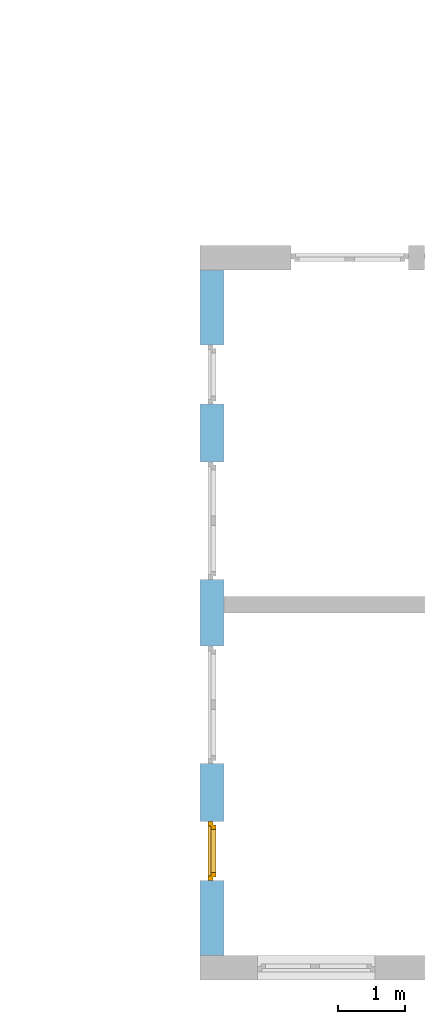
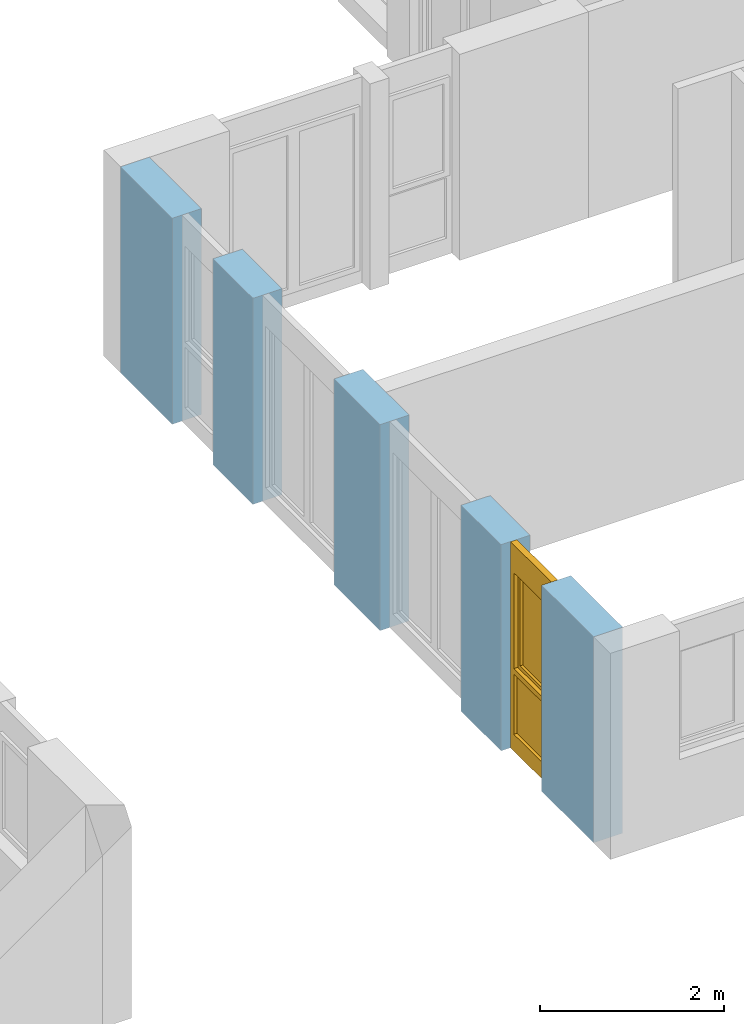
# One storey, part 13 of 41: 1 window, 4 openings, plus 1 element that does not belong to this part.
"""IFC2X3 building model written with IfcOpenShell, lengths in millimetres."""

from ifc_helpers import new_model, entity, si_unit, converted_unit, frame, frame_2d, origin, origin_with_axes, place, context, subcontext, project, spatial, rectangle, extrude, faceted_brep, material, layer, layer_set, layer_usage, type_object, element, fill, save


model = new_model("IFC2X3")

# Units and contexts
model_context = context("Model", 3, precision=1e-05, world=origin())
body_context = subcontext(model_context, "Body", "Model", "MODEL_VIEW")
ifc_project = project(units=[si_unit("LENGTHUNIT", "METRE", prefix="MILLI"), converted_unit("PLANEANGLEUNIT", "DEGREE", entity("IfcPlaneAngleMeasure", 0.0174532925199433), si_unit("PLANEANGLEUNIT", "RADIAN"), dimensions=[0, 0, 0, 0, 0, 0, 0]), si_unit("AREAUNIT", "SQUARE_METRE"), si_unit("VOLUMEUNIT", "CUBIC_METRE")], contexts=[model_context])

# Building, storey
building_placement = place(None, origin())
building = spatial("IfcBuilding", under=ifc_project, at=building_placement, Name="Gebäude", CompositionType="ELEMENT")
storey_placement = place(building_placement, frame((0.0, 0.0, -200.0), z_axis=(0.0, 0.0, 1.0), x_axis=(1.0, 0.0, 0.0)))
storey = spatial("IfcBuildingStorey", under=building, at=storey_placement, Name="EG.- Grundriss", CompositionType="ELEMENT", Elevation=-200.0)

# Wall, openings, window
ifc_material_1 = material(Name="Poroton")
ifc_layer = layer(ifc_material_1, 365.0)
ifc_layer_set = layer_set([ifc_layer])
ifc_layer_usage = layer_usage(ifc_layer_set, "AXIS2", "POSITIVE", 0.0)
wall_placement = place(storey_placement, frame((148357.7928067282, 135909.8877324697, 0.0), z_axis=(0.0, 0.0, 1.0), x_axis=(1.70032115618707e-14, -1.0, 0.0)))
wall = element("IfcWallStandardCase", 1, at=wall_placement, inside=storey, material=ifc_layer_usage, Name="<Unnamed Element>", context=body_context, shape_type="SweptSolid", body=[
    extrude(rectangle(XDim=10269.99999999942, YDim=365.0, at=frame_2d((5134.999999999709, 182.5), x_axis=(1.0, 0.0))), origin_with_axes(), (0.0, 0.0, 1.0), 2730.0),
])
opening_1_placement = place(wall_placement, frame((8259.999999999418, -9.487848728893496e-11, 0.0), z_axis=(0.0, 1.0, 0.0), x_axis=(0.0, 0.0, 1.0)))
opening_1 = element("IfcOpeningElement", 2, at=opening_1_placement, cuts=wall, Name="Fensteröffnung", ObjectType="Opening", context=body_context, shape_type="SweptSolid", body=[
    extrude(rectangle(XDim=2730.0, YDim=885.0, at=frame_2d((1365.0, 442.5), x_axis=(1.0, 0.0))), origin_with_axes(), (0.0, 0.0, 1.0), 365.0),
])
opening_2_placement = place(wall_placement, frame((5634.999999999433, -7.668859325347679e-11, 0.0), z_axis=(0.0, 1.0, 0.0), x_axis=(0.0, 0.0, 1.0)))
element("IfcOpeningElement", 3, at=opening_2_placement, cuts=wall, Name="Fensteröffnung", ObjectType="Opening", context=body_context, shape_type="SweptSolid", body=[
    extrude(rectangle(XDim=2730.0, YDim=1760.0, at=frame_2d((1365.0, 880.0), x_axis=(1.0, 0.0))), origin_with_axes(), (0.0, 0.0, 1.0), 365.0),
])
opening_3_placement = place(wall_placement, frame((2874.999999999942, -2.54658516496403e-11, 0.0), z_axis=(0.0, 1.0, 0.0), x_axis=(0.0, 0.0, 1.0)))
element("IfcOpeningElement", 4, at=opening_3_placement, cuts=wall, Name="Fensteröffnung", ObjectType="Opening", context=body_context, shape_type="SweptSolid", body=[
    extrude(rectangle(XDim=2730.0, YDim=1760.0, at=frame_2d((1365.0, 880.0), x_axis=(1.0, 0.0))), origin_with_axes(), (0.0, 0.0, 1.0), 365.0),
])
opening_4_placement = place(wall_placement, frame((1124.999999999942, -3.63797880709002e-12, 0.0), z_axis=(0.0, 1.0, 0.0), x_axis=(0.0, 0.0, 1.0)))
element("IfcOpeningElement", 5, at=opening_4_placement, cuts=wall, Name="Fensteröffnung", ObjectType="Opening", context=body_context, shape_type="SweptSolid", body=[
    extrude(rectangle(XDim=2730.0, YDim=885.0, at=frame_2d((1365.0, 442.5), x_axis=(1.0, 0.0))), origin_with_axes(), (0.0, 0.0, 1.0), 365.0),
])
ifc_material_2 = material()
window_style = type_object("IfcWindowStyle", Name="Fenster", ConstructionType="NOTDEFINED", OperationType="USERDEFINED", ParameterTakesPrecedence=False, Sizeable=False)
window_placement = place(opening_1_placement, frame((0.0, 0.0, 0.0), z_axis=(1.0, 0.0, 0.0), x_axis=(0.0, 1.0, 0.0)))
window = element("IfcWindow", 6, at=window_placement, inside=storey, type_object=window_style, material=ifc_material_2, Name="Fenster", OverallHeight=2730.0, OverallWidth=885.0, context=body_context, shape_type="Brep", body=[
    faceted_brep([(885.0000000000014, 200.0000000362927, 2730.0), (815.0000000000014, 200.0000000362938, 2730.0), (815.0000000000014, 200.0000000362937, -2.449293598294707e-15), (885.0000000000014, 200.0000000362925, -2.449293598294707e-15), (885.0, 120.0000000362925, 2.449293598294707e-15), (815.0, 120.0000000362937, 2.449293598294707e-15), (815.0, 120.0000000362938, 2730.0), (885.0, 120.0000000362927, 2730.0), (885.0000000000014, 200.0000000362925, -2.449293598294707e-15), (885.0, 120.0000000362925, 2.449293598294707e-15), (885.0, 120.0000000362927, 2730.0), (885.0000000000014, 200.0000000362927, 2730.0), (815.0000000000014, 200.0000000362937, -2.449293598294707e-15), (815.0, 120.0000000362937, 2.449293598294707e-15), (885.0, 120.0000000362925, 2.449293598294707e-15), (885.0000000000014, 200.0000000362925, -2.449293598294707e-15), (815.0000000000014, 200.0000000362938, 2730.0), (815.0, 120.0000000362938, 2730.0), (815.0, 120.0000000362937, 2.449293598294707e-15), (815.0000000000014, 200.0000000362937, -2.449293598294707e-15), (885.0000000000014, 200.0000000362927, 2730.0), (885.0, 120.0000000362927, 2730.0), (815.0, 120.0000000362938, 2730.0), (815.0000000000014, 200.0000000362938, 2730.0)], [[[0, 1, 2, 3]], [[4, 5, 6, 7]], [[8, 9, 10, 11]], [[12, 13, 14, 15]], [[16, 17, 18, 19]], [[20, 21, 22, 23]]], orient=[[False], [False], [False], [False], [False], [False]]),
    faceted_brep([(69.99999998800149, 200.0000000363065, 2730.0), (-1.199850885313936e-08, 200.0000000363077, 2730.0), (-1.199850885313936e-08, 200.0000000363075, -2.449293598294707e-15), (69.99999998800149, 200.0000000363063, -2.449293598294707e-15), (69.99999998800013, 120.0000000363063, 2.449293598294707e-15), (-1.199987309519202e-08, 120.0000000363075, 2.449293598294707e-15), (-1.199987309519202e-08, 120.0000000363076, 2730.0), (69.99999998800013, 120.0000000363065, 2730.0), (69.99999998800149, 200.0000000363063, -2.449293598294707e-15), (69.99999998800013, 120.0000000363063, 2.449293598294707e-15), (69.99999998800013, 120.0000000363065, 2730.0), (69.99999998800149, 200.0000000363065, 2730.0), (-1.199850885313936e-08, 200.0000000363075, -2.449293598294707e-15), (-1.199987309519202e-08, 120.0000000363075, 2.449293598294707e-15), (69.99999998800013, 120.0000000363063, 2.449293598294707e-15), (69.99999998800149, 200.0000000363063, -2.449293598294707e-15), (-1.199850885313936e-08, 200.0000000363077, 2730.0), (-1.199987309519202e-08, 120.0000000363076, 2730.0), (-1.199987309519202e-08, 120.0000000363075, 2.449293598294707e-15), (-1.199850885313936e-08, 200.0000000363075, -2.449293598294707e-15), (69.99999998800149, 200.0000000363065, 2730.0), (69.99999998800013, 120.0000000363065, 2730.0), (-1.199987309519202e-08, 120.0000000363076, 2730.0), (-1.199850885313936e-08, 200.0000000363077, 2730.0)], [[[0, 1, 2, 3]], [[4, 5, 6, 7]], [[8, 9, 10, 11]], [[12, 13, 14, 15]], [[16, 17, 18, 19]], [[20, 21, 22, 23]]], orient=[[False], [False], [False], [False], [False], [False]]),
    faceted_brep([(815.0000000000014, 200.0000000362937, 220.0), (69.99999998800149, 200.0000000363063, 220.0), (69.99999998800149, 200.0000000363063, -2.449293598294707e-15), (815.0000000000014, 200.0000000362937, -2.449293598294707e-15), (815.0, 120.0000000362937, 2.449293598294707e-15), (69.99999998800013, 120.0000000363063, 2.449293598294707e-15), (69.99999998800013, 120.0000000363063, 220.0), (815.0, 120.0000000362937, 220.0), (815.0000000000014, 200.0000000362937, -2.449293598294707e-15), (815.0, 120.0000000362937, 2.449293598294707e-15), (815.0, 120.0000000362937, 220.0), (815.0000000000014, 200.0000000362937, 220.0), (69.99999998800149, 200.0000000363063, -2.449293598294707e-15), (69.99999998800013, 120.0000000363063, 2.449293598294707e-15), (815.0, 120.0000000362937, 2.449293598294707e-15), (815.0000000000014, 200.0000000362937, -2.449293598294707e-15), (69.99999998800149, 200.0000000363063, 220.0), (69.99999998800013, 120.0000000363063, 220.0), (69.99999998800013, 120.0000000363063, 2.449293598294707e-15), (69.99999998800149, 200.0000000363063, -2.449293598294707e-15), (815.0000000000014, 200.0000000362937, 220.0), (815.0, 120.0000000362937, 220.0), (69.99999998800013, 120.0000000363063, 220.0), (69.99999998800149, 200.0000000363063, 220.0)], [[[0, 1, 2, 3]], [[4, 5, 6, 7]], [[8, 9, 10, 11]], [[12, 13, 14, 15]], [[16, 17, 18, 19]], [[20, 21, 22, 23]]], orient=[[False], [False], [False], [False], [False], [False]]),
    faceted_brep([(815.0000000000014, 200.0000000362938, 2730.0), (69.99999998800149, 200.0000000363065, 2730.0), (69.99999998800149, 200.0000000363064, 2360.0), (815.0000000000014, 200.0000000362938, 2360.0), (815.0, 120.0000000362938, 2360.0), (69.99999998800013, 120.0000000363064, 2360.0), (69.99999998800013, 120.0000000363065, 2730.0), (815.0, 120.0000000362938, 2730.0), (815.0000000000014, 200.0000000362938, 2360.0), (815.0, 120.0000000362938, 2360.0), (815.0, 120.0000000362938, 2730.0), (815.0000000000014, 200.0000000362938, 2730.0), (69.99999998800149, 200.0000000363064, 2360.0), (69.99999998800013, 120.0000000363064, 2360.0), (815.0, 120.0000000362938, 2360.0), (815.0000000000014, 200.0000000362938, 2360.0), (69.99999998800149, 200.0000000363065, 2730.0), (69.99999998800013, 120.0000000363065, 2730.0), (69.99999998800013, 120.0000000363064, 2360.0), (69.99999998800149, 200.0000000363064, 2360.0), (815.0000000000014, 200.0000000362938, 2730.0), (815.0, 120.0000000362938, 2730.0), (69.99999998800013, 120.0000000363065, 2730.0), (69.99999998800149, 200.0000000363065, 2730.0)], [[[0, 1, 2, 3]], [[4, 5, 6, 7]], [[8, 9, 10, 11]], [[12, 13, 14, 15]], [[16, 17, 18, 19]], [[20, 21, 22, 23]]], orient=[[False], [False], [False], [False], [False], [False]]),
    faceted_brep([(815.0000000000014, 200.0000000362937, 1090.0), (69.99999998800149, 200.0000000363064, 1090.0), (69.99999998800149, 200.0000000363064, 1020.0), (815.0000000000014, 200.0000000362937, 1020.0), (815.0, 120.0000000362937, 1020.0), (69.99999998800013, 120.0000000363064, 1020.0), (69.99999998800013, 120.0000000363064, 1090.0), (815.0, 120.0000000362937, 1090.0), (815.0000000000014, 200.0000000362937, 1020.0), (815.0, 120.0000000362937, 1020.0), (815.0, 120.0000000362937, 1090.0), (815.0000000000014, 200.0000000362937, 1090.0), (69.99999998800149, 200.0000000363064, 1020.0), (69.99999998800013, 120.0000000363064, 1020.0), (815.0, 120.0000000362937, 1020.0), (815.0000000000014, 200.0000000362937, 1020.0), (69.99999998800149, 200.0000000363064, 1090.0), (69.99999998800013, 120.0000000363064, 1090.0), (69.99999998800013, 120.0000000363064, 1020.0), (69.99999998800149, 200.0000000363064, 1020.0), (815.0000000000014, 200.0000000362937, 1090.0), (815.0, 120.0000000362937, 1090.0), (69.99999998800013, 120.0000000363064, 1090.0), (69.99999998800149, 200.0000000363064, 1090.0)], [[[0, 1, 2, 3]], [[4, 5, 6, 7]], [[8, 9, 10, 11]], [[12, 13, 14, 15]], [[16, 17, 18, 19]], [[20, 21, 22, 23]]], orient=[[False], [False], [False], [False], [False], [False]]),
    faceted_brep([(815.0000000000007, 160.0000000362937, 220.0), (815.0000000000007, 160.0000000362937, 1020.0), (69.99999998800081, 160.0000000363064, 1020.0), (69.99999998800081, 160.0000000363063, 220.0), (815.0000000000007, 159.0000000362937, 220.0), (69.9999999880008, 159.0000000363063, 220.0), (69.9999999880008, 159.0000000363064, 1020.0), (815.0000000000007, 159.0000000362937, 1020.0), (815.0000000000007, 160.0000000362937, 220.0), (815.0000000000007, 159.0000000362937, 220.0), (815.0000000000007, 159.0000000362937, 1020.0), (815.0000000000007, 160.0000000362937, 1020.0), (815.0000000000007, 160.0000000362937, 1020.0), (815.0000000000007, 159.0000000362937, 1020.0), (69.9999999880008, 159.0000000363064, 1020.0), (69.99999998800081, 160.0000000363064, 1020.0), (69.99999998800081, 160.0000000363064, 1020.0), (69.9999999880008, 159.0000000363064, 1020.0), (69.9999999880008, 159.0000000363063, 220.0), (69.99999998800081, 160.0000000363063, 220.0), (69.99999998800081, 160.0000000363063, 220.0), (69.9999999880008, 159.0000000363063, 220.0), (815.0000000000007, 159.0000000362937, 220.0), (815.0000000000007, 160.0000000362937, 220.0)], [[[0, 1, 2, 3]], [[4, 5, 6, 7]], [[8, 9, 10, 11]], [[12, 13, 14, 15]], [[16, 17, 18, 19]], [[20, 21, 22, 23]]], orient=[[False], [False], [False], [False], [False], [False]]),
    faceted_brep([(835.000000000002, 240.0000000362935, 2380.0), (765.000000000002, 240.0000000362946, 2380.0), (765.000000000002, 240.0000000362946, 1070.0), (835.000000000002, 240.0000000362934, 1070.0), (835.0000000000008, 170.0000000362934, 1070.0), (765.0000000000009, 170.0000000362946, 1070.0), (765.0000000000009, 170.0000000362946, 2380.0), (835.0000000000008, 170.0000000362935, 2380.0), (835.000000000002, 240.0000000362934, 1070.0), (835.0000000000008, 170.0000000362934, 1070.0), (835.0000000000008, 170.0000000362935, 2380.0), (835.000000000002, 240.0000000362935, 2380.0), (765.000000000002, 240.0000000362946, 1070.0), (765.0000000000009, 170.0000000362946, 1070.0), (835.0000000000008, 170.0000000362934, 1070.0), (835.000000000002, 240.0000000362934, 1070.0), (765.000000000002, 240.0000000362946, 2380.0), (765.0000000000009, 170.0000000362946, 2380.0), (765.0000000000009, 170.0000000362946, 1070.0), (765.000000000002, 240.0000000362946, 1070.0), (835.000000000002, 240.0000000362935, 2380.0), (835.0000000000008, 170.0000000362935, 2380.0), (765.0000000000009, 170.0000000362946, 2380.0), (765.000000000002, 240.0000000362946, 2380.0)], [[[0, 1, 2, 3]], [[4, 5, 6, 7]], [[8, 9, 10, 11]], [[12, 13, 14, 15]], [[16, 17, 18, 19]], [[20, 21, 22, 23]]], orient=[[False], [False], [False], [False], [False], [False]]),
    faceted_brep([(119.9999999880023, 240.0000000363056, 2380.0), (49.99999998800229, 240.0000000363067, 2380.0), (49.99999998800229, 240.0000000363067, 1070.0), (119.9999999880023, 240.0000000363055, 1070.0), (119.999999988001, 170.0000000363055, 1070.0), (49.99999998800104, 170.0000000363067, 1070.0), (49.99999998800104, 170.0000000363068, 2380.0), (119.999999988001, 170.0000000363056, 2380.0), (119.9999999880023, 240.0000000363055, 1070.0), (119.999999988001, 170.0000000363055, 1070.0), (119.999999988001, 170.0000000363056, 2380.0), (119.9999999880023, 240.0000000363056, 2380.0), (49.99999998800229, 240.0000000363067, 1070.0), (49.99999998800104, 170.0000000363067, 1070.0), (119.999999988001, 170.0000000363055, 1070.0), (119.9999999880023, 240.0000000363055, 1070.0), (49.99999998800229, 240.0000000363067, 2380.0), (49.99999998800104, 170.0000000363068, 2380.0), (49.99999998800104, 170.0000000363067, 1070.0), (49.99999998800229, 240.0000000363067, 1070.0), (119.9999999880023, 240.0000000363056, 2380.0), (119.999999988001, 170.0000000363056, 2380.0), (49.99999998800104, 170.0000000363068, 2380.0), (49.99999998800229, 240.0000000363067, 2380.0)], [[[0, 1, 2, 3]], [[4, 5, 6, 7]], [[8, 9, 10, 11]], [[12, 13, 14, 15]], [[16, 17, 18, 19]], [[20, 21, 22, 23]]], orient=[[False], [False], [False], [False], [False], [False]]),
    faceted_brep([(765.000000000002, 240.0000000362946, 1140.0), (119.9999999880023, 240.0000000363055, 1140.0), (119.9999999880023, 240.0000000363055, 1070.0), (765.000000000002, 240.0000000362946, 1070.0), (765.0000000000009, 170.0000000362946, 1070.0), (119.999999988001, 170.0000000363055, 1070.0), (119.999999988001, 170.0000000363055, 1140.0), (765.0000000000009, 170.0000000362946, 1140.0), (765.000000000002, 240.0000000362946, 1070.0), (765.0000000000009, 170.0000000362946, 1070.0), (765.0000000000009, 170.0000000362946, 1140.0), (765.000000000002, 240.0000000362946, 1140.0), (119.9999999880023, 240.0000000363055, 1070.0), (119.999999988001, 170.0000000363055, 1070.0), (765.0000000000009, 170.0000000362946, 1070.0), (765.000000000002, 240.0000000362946, 1070.0), (119.9999999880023, 240.0000000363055, 1140.0), (119.999999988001, 170.0000000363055, 1140.0), (119.999999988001, 170.0000000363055, 1070.0), (119.9999999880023, 240.0000000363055, 1070.0), (765.000000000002, 240.0000000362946, 1140.0), (765.0000000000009, 170.0000000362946, 1140.0), (119.999999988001, 170.0000000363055, 1140.0), (119.9999999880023, 240.0000000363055, 1140.0)], [[[0, 1, 2, 3]], [[4, 5, 6, 7]], [[8, 9, 10, 11]], [[12, 13, 14, 15]], [[16, 17, 18, 19]], [[20, 21, 22, 23]]], orient=[[False], [False], [False], [False], [False], [False]]),
    faceted_brep([(765.000000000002, 240.0000000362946, 2380.0), (119.9999999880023, 240.0000000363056, 2380.0), (119.9999999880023, 240.0000000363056, 2310.0), (765.000000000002, 240.0000000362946, 2310.0), (765.0000000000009, 170.0000000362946, 2310.0), (119.999999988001, 170.0000000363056, 2310.0), (119.999999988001, 170.0000000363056, 2380.0), (765.0000000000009, 170.0000000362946, 2380.0), (765.000000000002, 240.0000000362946, 2310.0), (765.0000000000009, 170.0000000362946, 2310.0), (765.0000000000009, 170.0000000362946, 2380.0), (765.000000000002, 240.0000000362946, 2380.0), (119.9999999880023, 240.0000000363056, 2310.0), (119.999999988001, 170.0000000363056, 2310.0), (765.0000000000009, 170.0000000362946, 2310.0), (765.000000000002, 240.0000000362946, 2310.0), (119.9999999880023, 240.0000000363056, 2380.0), (119.999999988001, 170.0000000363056, 2380.0), (119.999999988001, 170.0000000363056, 2310.0), (119.9999999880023, 240.0000000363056, 2310.0), (765.000000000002, 240.0000000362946, 2380.0), (765.0000000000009, 170.0000000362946, 2380.0), (119.999999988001, 170.0000000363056, 2380.0), (119.9999999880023, 240.0000000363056, 2380.0)], [[[0, 1, 2, 3]], [[4, 5, 6, 7]], [[8, 9, 10, 11]], [[12, 13, 14, 15]], [[16, 17, 18, 19]], [[20, 21, 22, 23]]], orient=[[False], [False], [False], [False], [False], [False]]),
    faceted_brep([(765.0000000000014, 205.0000000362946, 1140.0), (765.0000000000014, 205.0000000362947, 2310.0), (119.9999999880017, 205.0000000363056, 2310.0), (119.9999999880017, 205.0000000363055, 1140.0), (765.0000000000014, 204.0000000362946, 1140.0), (119.9999999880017, 204.0000000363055, 1140.0), (119.9999999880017, 204.0000000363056, 2310.0), (765.0000000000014, 204.0000000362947, 2310.0), (765.0000000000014, 205.0000000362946, 1140.0), (765.0000000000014, 204.0000000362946, 1140.0), (765.0000000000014, 204.0000000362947, 2310.0), (765.0000000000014, 205.0000000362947, 2310.0), (765.0000000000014, 205.0000000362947, 2310.0), (765.0000000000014, 204.0000000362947, 2310.0), (119.9999999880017, 204.0000000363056, 2310.0), (119.9999999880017, 205.0000000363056, 2310.0), (119.9999999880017, 205.0000000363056, 2310.0), (119.9999999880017, 204.0000000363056, 2310.0), (119.9999999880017, 204.0000000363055, 1140.0), (119.9999999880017, 205.0000000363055, 1140.0), (119.9999999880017, 205.0000000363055, 1140.0), (119.9999999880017, 204.0000000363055, 1140.0), (765.0000000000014, 204.0000000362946, 1140.0), (765.0000000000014, 205.0000000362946, 1140.0)], [[[0, 1, 2, 3]], [[4, 5, 6, 7]], [[8, 9, 10, 11]], [[12, 13, 14, 15]], [[16, 17, 18, 19]], [[20, 21, 22, 23]]], orient=[[False], [False], [False], [False], [False], [False]]),
])
fill(opening_1, window)

save(model, "model.ifc")
